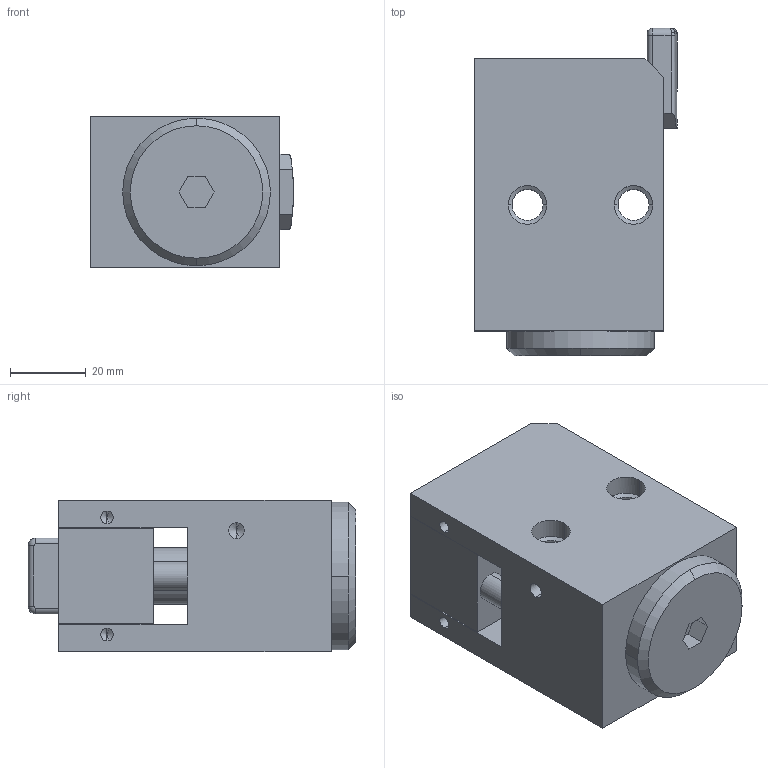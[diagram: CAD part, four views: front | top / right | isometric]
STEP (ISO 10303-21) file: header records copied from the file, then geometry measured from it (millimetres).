
FILE_DESCRIPTION (( 'STEP AP203' ), '1' );
FILE_NAME ('DBSS-10.STEP', '2009-11-27T11:04:26', ( '' ), ( '' ), 'SwSTEP 2.0', 'SolidWorks 2007', '' );
FILE_SCHEMA (( 'CONFIG_CONTROL_DESIGN' ));
Length unit declared in the file: millimetre
Products named in the file (1): DBSS-10
Bounding box: 53.6 x 86.5 x 40 mm (x, y, z)
Volume: 132369.4 mm3; surface area: 30101.2 mm2
Topology: 1 solids, 1 shells, 198 faces, 495 edges, 306 vertices
Faces by surface type: plane 103, cylinder 58, cone 26, torus 7, bspline 4
Entity records: 6111 total; most frequent: CARTESIAN_POINT 1280, DIRECTION 1008, ORIENTED_EDGE 970, EDGE_CURVE 485, AXIS2_PLACEMENT_3D 350, VECTOR 308, LINE 308, VERTEX_POINT 306
